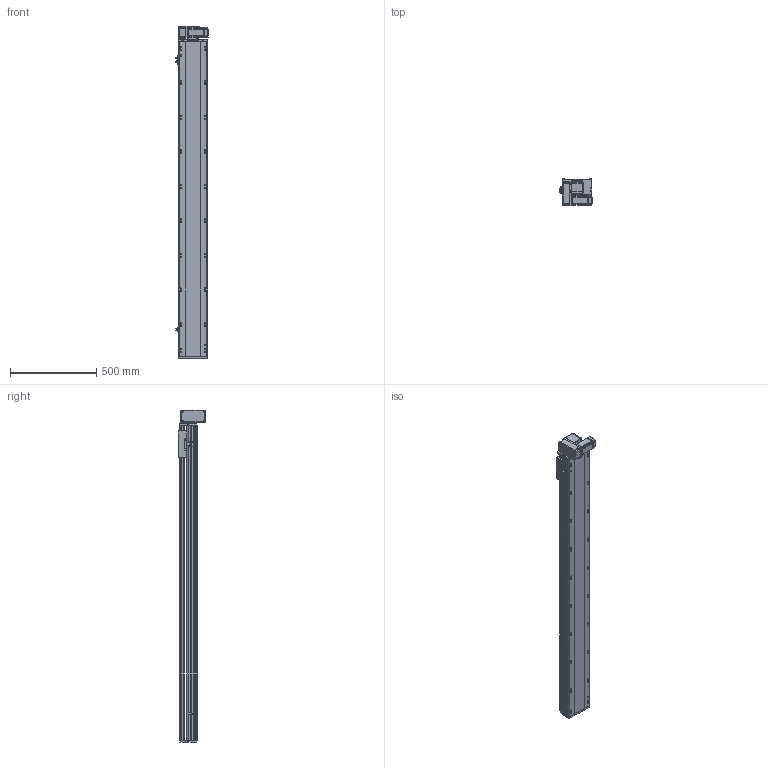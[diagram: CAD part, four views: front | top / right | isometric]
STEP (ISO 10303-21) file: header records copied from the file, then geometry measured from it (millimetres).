
FILE_DESCRIPTION (( 'STEP AP214' ), '1' );
FILE_NAME ('RTB17S-XX-1550-LM-M40-C4.STEP', '2025-12-11T06:29:40', ( '' ), ( '' ), 'SwSTEP 2.0', 'SolidWorks 2018', '' );
FILE_SCHEMA (( 'AUTOMOTIVE_DESIGN' ));
Length unit declared in the file: millimetre
Products named in the file (14): RTB17S-LM-々湍釱蚾饜-400W^RTB17S-XX-XX-LM-M40-C4; RTB14-L-018P^RTB17S-LM-々湍釱蚾饜-400W_RTB17S-XX-XX-LM-M40-C4; RTB14-L-017P^RTB17S-LM-々湍釱蚾饜-400W_RTB17S-XX-XX-LM-M40-C4; RTB14-L-005P--轴承塑胶压盖^RTB17S-LM-皮带座装配-400W_RTB17S-XX-XX-LM-M40-C4; RTB14-L-008-M20--萇儂啣^RTB17S-LM-々湍釱蚾饜-400W_RTB17S-XX-XX-LM-M40-C4; RTB17S-L-004佪裝蹟譫蟀諉釱^RTB17S-XX-XX-LM-M40-C4; 400W侜督萇儂^RTB17S-XX-XX-LM-M40-C4; RTH13-BL-012覜茼え俋离^RTB17S-XX-XX-LM-M40-C4; RTB17S-L-007奻裔^RTB17S-XX-XX-LM-M40-C4; RMP17S-L-014-T20--々湍釱^RTB17S-LM-々湍釱蚾饜-400W_RTB17S-XX-XX-LM-M40-C4; RTB17-R-011菁釱^RTB17S-XX-XX-LM-M40-C4; RTB17S-L-001耜醱啣^RTB17S-XX-XX-LM-M40-C4; RTB17S-XX-1550-LM-M40-C4; OMRON EE-SX672 传感器^RTB17S-XX-XX-LM-M40-C4
Assembly tree (16 placements, depth 3):
  RTB17S-XX-1550-LM-M40-C4
    RTB17-R-011菁釱^RTB17S-XX-XX-LM-M40-C4
    RTB17S-L-007奻裔^RTB17S-XX-XX-LM-M40-C4
    OMRON EE-SX672 传感器^RTB17S-XX-XX-LM-M40-C4  x3
    RTH13-BL-012覜茼え俋离^RTB17S-XX-XX-LM-M40-C4
    RTB17S-L-001耜醱啣^RTB17S-XX-XX-LM-M40-C4
    400W侜督萇儂^RTB17S-XX-XX-LM-M40-C4
    RTB17S-L-004佪裝蹟譫蟀諉釱^RTB17S-XX-XX-LM-M40-C4
    RTB17S-LM-々湍釱蚾饜-400W^RTB17S-XX-XX-LM-M40-C4
      RMP17S-L-014-T20--々湍釱^RTB17S-LM-々湍釱蚾饜-400W_RTB17S-XX-XX-LM-M40-C4
      RTB14-L-005P--轴承塑胶压盖^RTB17S-LM-皮带座装配-400W_RTB17S-XX-XX-LM-M40-C4
      RTB14-L-008-M20--萇儂啣^RTB17S-LM-々湍釱蚾饜-400W_RTB17S-XX-XX-LM-M40-C4
      RTB14-L-017P^RTB17S-LM-々湍釱蚾饜-400W_RTB17S-XX-XX-LM-M40-C4  x2
      RTB14-L-018P^RTB17S-LM-々湍釱蚾饜-400W_RTB17S-XX-XX-LM-M40-C4
Bounding box: 186 x 156.5 x 1922.5 mm (x, y, z)
Volume: 16859563.8 mm3; surface area: 1987175.1 mm2
Topology: 15 solids, 15 shells, 2253 faces, 6249 edges, 4077 vertices
Faces by surface type: plane 1074, cylinder 731, bspline 301, cone 139, torus 8
Entity records: 64937 total; most frequent: CARTESIAN_POINT 18254, ORIENTED_EDGE 9342, DIRECTION 8666, EDGE_CURVE 4671, VERTEX_POINT 3065, AXIS2_PLACEMENT_3D 2995, LINE 2676, VECTOR 2676
